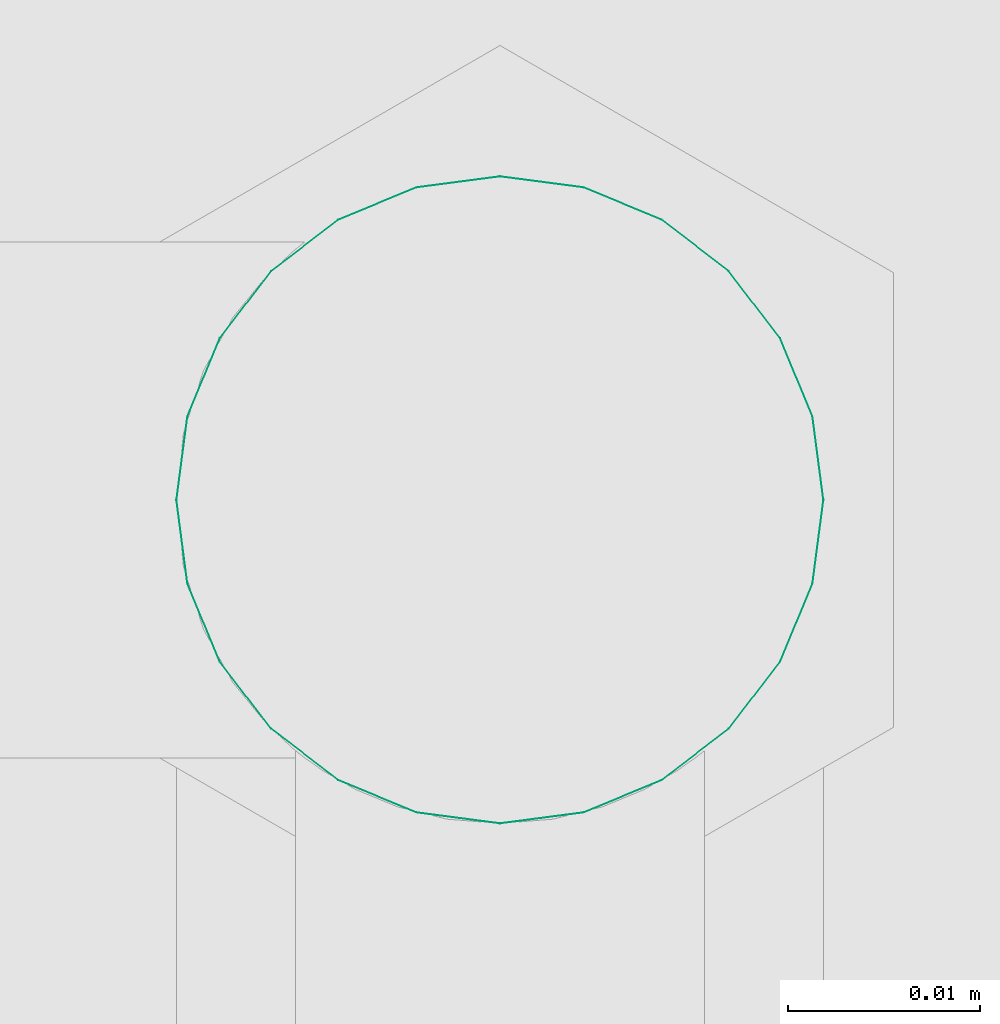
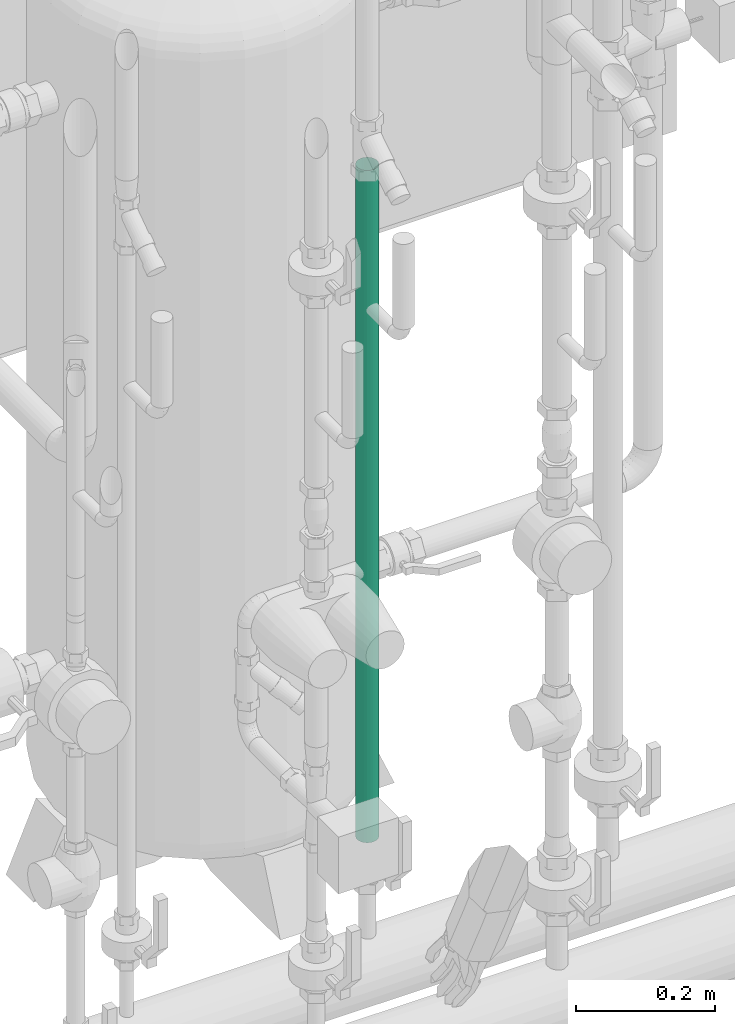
# One storey, part 207 of 374: 1 flow segment.
"""IFC2X3 building model written with IfcOpenShell, lengths in metres."""

from ifc_helpers import new_model, si_unit, direction, origin, place, context, subcontext, project, spatial, open_shell, surface_model, source, transform, mapped, element, save


model = new_model("IFC2X3")

# Units and contexts
model_context = context("Model", 3, precision=1e-05, world=origin(), true_north=direction((-0.4480736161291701, 0.8939966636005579)))
body_context = subcontext(model_context, "Body", "Model", "MODEL_VIEW")
ifc_project = project(units=[si_unit("LENGTHUNIT", "METRE"), si_unit("AREAUNIT", "SQUARE_METRE"), si_unit("VOLUMEUNIT", "CUBIC_METRE"), si_unit("PLANEANGLEUNIT", "RADIAN"), si_unit("THERMODYNAMICTEMPERATUREUNIT", "KELVIN"), si_unit("MASSUNIT", "GRAM", prefix="KILO"), si_unit("TIMEUNIT", "SECOND")], contexts=[model_context])

# Site, building, storey
site_placement = place(None, origin())
site = spatial("IfcSite", under=ifc_project, at=site_placement, Name="Site 1", CompositionType="ELEMENT")
building_placement = place(site_placement, origin())
building = spatial("IfcBuilding", under=site, at=building_placement, Name="Undefined", CompositionType="ELEMENT")
storey_placement = place(building_placement, origin())
storey = spatial("IfcBuildingStorey", under=building, at=storey_placement, Name="Rez de chauss\x8ee", CompositionType="ELEMENT", Elevation=0.0)

# Flow segment
shared_shape = source(origin(), body_context, "Body", "SurfaceModel", [
    surface_model("IfcFaceBasedSurfaceModel", [(0.0, 0.004398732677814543, 0.0), (0.0, 0.0, 0.0), (1.1818233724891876, -8.8817842e-16, 0.0), (1.1818233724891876, 0.004398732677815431, 0.0), (0.0, -0.004248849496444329, -0.00113847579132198), (1.1818233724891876, -0.004248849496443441, -0.0011384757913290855), (0.0, -0.008058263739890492, -0.003337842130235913), (1.1818233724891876, -0.008058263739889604, -0.003337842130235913), (0.0, -0.01116863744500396, -0.0064482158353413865), (1.1818233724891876, -0.011168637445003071, -0.0064482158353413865), (0.0, -0.013368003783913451, -0.010257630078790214), (1.1818233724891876, -0.01336800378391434, -0.010257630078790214), (0.0, -0.014506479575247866, -0.014506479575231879), (1.1818233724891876, -0.014506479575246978, -0.014506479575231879), (0.0, -0.01450647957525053, -0.01890521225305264), (1.1818233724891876, -0.014506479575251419, -0.018905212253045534), (0.0, -0.013368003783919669, -0.023154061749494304), (1.1818233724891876, -0.013368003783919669, -0.023154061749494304), (0.0, -0.011168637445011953, -0.02696347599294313), (1.1818233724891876, -0.011168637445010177, -0.026963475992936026), (0.0, -0.008058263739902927, -0.03007384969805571), (1.1818233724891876, -0.008058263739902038, -0.030073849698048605), (0.0, -0.004248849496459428, -0.03227321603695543), (1.1818233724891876, -0.00424884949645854, -0.03227321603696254), (0.0, -1.5099033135e-14, -0.03341169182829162), (1.1818233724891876, -1.5099033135e-14, -0.03341169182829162), (0.0, 0.00439873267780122, -0.03341169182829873), (1.1818233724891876, 0.004398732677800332, -0.03341169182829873), (0.0, 0.008647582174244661, -0.03227321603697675), (1.1818233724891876, 0.008647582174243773, -0.03227321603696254), (0.0, 0.012456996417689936, -0.030073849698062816), (1.1818233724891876, 0.012456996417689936, -0.03007384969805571), (0.0, 0.01556737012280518, -0.026963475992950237), (1.1818233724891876, 0.015567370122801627, -0.026963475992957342), (0.0, 0.017766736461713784, -0.023154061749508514), (1.1818233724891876, 0.017766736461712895, -0.023154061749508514), (0.0, 0.018905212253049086, -0.01890521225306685), (1.1818233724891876, 0.018905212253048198, -0.018905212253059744), (0.0, 0.018905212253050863, -0.01450647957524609), (1.1818233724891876, 0.018905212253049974, -0.014506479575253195), (0.0, 0.01776673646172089, -0.01025763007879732), (1.1818233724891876, 0.017766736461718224, -0.010257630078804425), (0.0, 0.015567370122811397, -0.006448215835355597), (1.1818233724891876, 0.015567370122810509, -0.006448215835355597), (0.0, 0.012456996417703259, -0.0033378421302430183), (1.1818233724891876, 0.01245699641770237, -0.0033378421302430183), (0.0, 0.00864758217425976, -0.0011384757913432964), (1.1818233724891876, 0.008647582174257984, -0.001138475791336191)], [open_shell([[[0, 1, 2, 3]], [[1, 4, 5, 2]], [[4, 6, 7, 5]], [[6, 8, 9, 7]], [[8, 10, 11, 9]], [[10, 12, 13, 11]], [[12, 14, 15, 13]], [[14, 16, 17, 15]], [[16, 18, 19, 17]], [[18, 20, 21, 19]], [[20, 22, 23, 21]], [[22, 24, 25, 23]], [[24, 26, 27, 25]], [[26, 28, 29, 27]], [[28, 30, 31, 29]], [[30, 32, 33, 31]], [[32, 34, 35, 33]], [[34, 36, 37, 35]], [[36, 38, 39, 37]], [[38, 40, 41, 39]], [[40, 42, 43, 41]], [[42, 44, 45, 43]], [[44, 46, 47, 45]], [[46, 0, 3, 47]]])]),
])
flow_segment_placement = place(storey_placement, origin())
element("IfcFlowSegment", 1, at=flow_segment_placement, inside=storey, Name="Tube acier d'après DIN 2448", ObjectType="Tube acier d'après DIN 2448", context=body_context, shape_type="MappedRepresentation", body=[
    mapped(shared_shape, transform((53.47383786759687, 10.92239814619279, 0.52855), x_axis=(0.0, 0.0, 1.0), y_axis=(0.13052619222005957, -0.9914448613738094, 0.0), z_axis=(0.9914448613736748, 0.13052619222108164, 0.0))),
])

save(model, "model.ifc")
